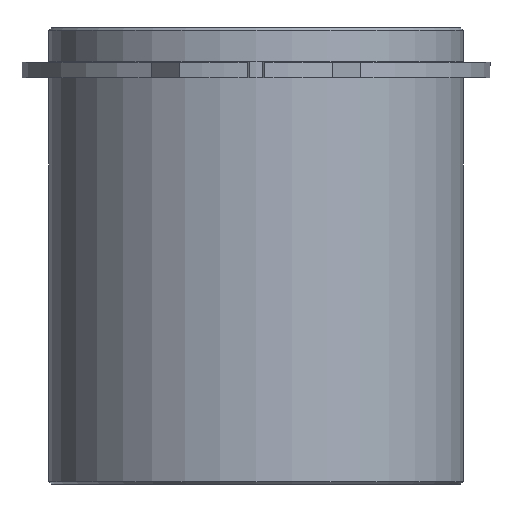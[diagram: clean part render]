
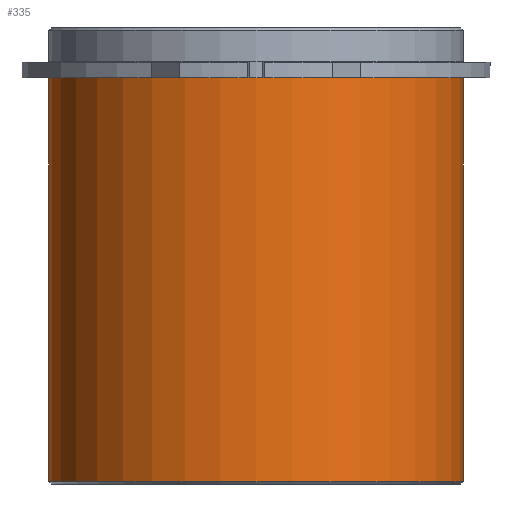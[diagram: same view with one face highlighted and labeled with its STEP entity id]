
A CAD part, front view. The second image highlights one B-rep face of the part: STEP entity #335.
In plain terms, the highlighted cylindrical face has radius 23.625 mm (diameter 47.25 mm), a partial arc.
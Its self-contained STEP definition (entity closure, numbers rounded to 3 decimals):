
#294=CARTESIAN_POINT('',(0.0,0.,-23.0));
#295=DIRECTION('',(0.0,0.,1.0));
#296=DIRECTION('',(1.0,0.0,0.0));
#297=AXIS2_PLACEMENT_3D('',#294,#295,#296);
#298=CYLINDRICAL_SURFACE('',#297,23.625);
#299=CARTESIAN_POINT('',(23.625,0.0,0.0));
#300=VERTEX_POINT('',#299);
#301=CARTESIAN_POINT('',(23.625,0.,-46.0));
#302=VERTEX_POINT('',#301);
#303=CARTESIAN_POINT('',(23.625,0.0,0.0));
#304=DIRECTION('',(0.0,0.0,-1.0));
#305=VECTOR('',#304,46.0);
#306=LINE('',#303,#305);
#307=EDGE_CURVE('',#300,#302,#306,.T.);
#308=ORIENTED_EDGE('',*,*,#307,.F.);
#309=CARTESIAN_POINT('',(-23.625,0.,0.0));
#310=VERTEX_POINT('',#309);
#311=CARTESIAN_POINT('',(0.0,0.0,0.0));
#312=DIRECTION('',(0.0,0.0,1.0));
#313=DIRECTION('',(1.0,0.0,0.0));
#314=AXIS2_PLACEMENT_3D('',#311,#312,#313);
#315=CIRCLE('',#314,23.625);
#316=EDGE_CURVE('',#310,#300,#315,.T.);
#317=ORIENTED_EDGE('',*,*,#316,.F.);
#318=CARTESIAN_POINT('',(-23.625,0.,-46.));
#319=VERTEX_POINT('',#318);
#320=CARTESIAN_POINT('',(-23.625,0.,0.0));
#321=DIRECTION('',(0.0,0.0,-1.0));
#322=VECTOR('',#321,46.);
#323=LINE('',#320,#322);
#324=EDGE_CURVE('',#310,#319,#323,.T.);
#325=ORIENTED_EDGE('',*,*,#324,.T.);
#326=CARTESIAN_POINT('',(0.0,0.,-46.0));
#327=DIRECTION('',(0.0,0.0,1.0));
#328=DIRECTION('',(1.0,0.0,0.0));
#329=AXIS2_PLACEMENT_3D('',#326,#327,#328);
#330=CIRCLE('',#329,23.625);
#331=EDGE_CURVE('',#319,#302,#330,.T.);
#332=ORIENTED_EDGE('',*,*,#331,.T.);
#333=EDGE_LOOP('',(#308,#317,#325,#332));
#334=FACE_OUTER_BOUND('',#333,.T.);
#335=ADVANCED_FACE('',(#334),#298,.T.);
